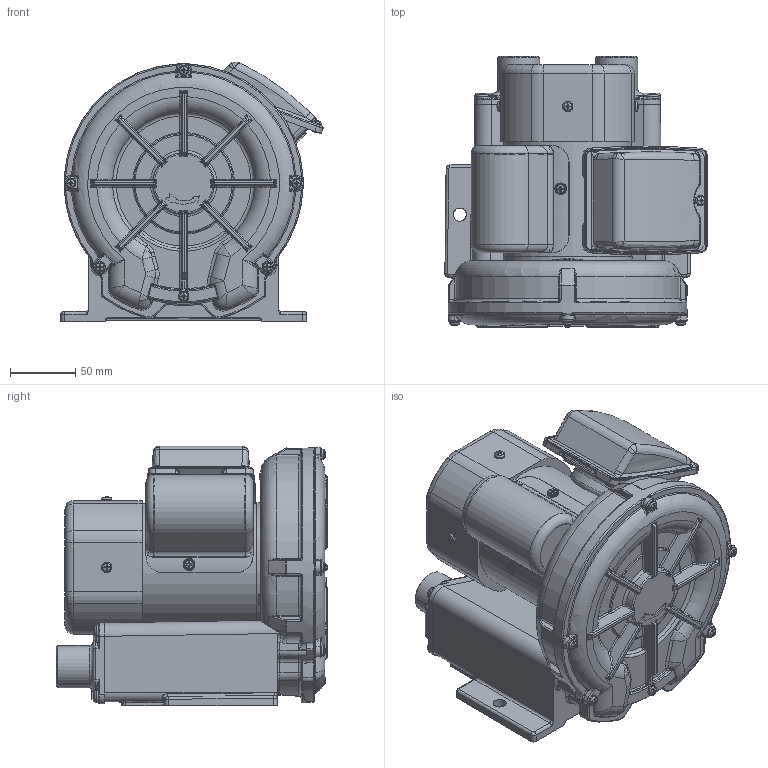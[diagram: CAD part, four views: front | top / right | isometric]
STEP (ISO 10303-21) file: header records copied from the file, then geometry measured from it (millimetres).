
FILE_DESCRIPTION(/* description */ (''),/* implementation_level */ '2;1');
FILE_NAME(/* name */ 'Y:\鼓風機\鼓風機組合\\X2\591689C07D445408\X0\\VFC080P-5T.stp',/* time_stamp */ '2018-01-18T15:58:58+08:00',/* author */ ('daniel'),/* organization */ (''),/* preprocessor_version */ 'ST-DEVELOPER v16.1',/* originating_system */ 'Autodesk Inventor 2016',/* authorisation */ '');
FILE_SCHEMA (('AUTOMOTIVE_DESIGN { 1 0 10303 214 3 1 1 }'));
Products named in the file (1): VFC080P-5T
Bounding box: 200.77 x 207.5 x 198.8 mm (x, y, z)
Volume: 3686779.4 mm3; surface area: 285393.4 mm2
Topology: 3 solids, 3 shells, 2489 faces, 6144 edges, 3542 vertices
Faces by surface type: bspline 668, cylinder 633, plane 515, torus 385, cone 171, sphere 117
Full cylindrical faces by diameter (mm): 4 x3, 4.5 x1, 7 x2, 8 x4, 9 x2, 10 x2, 12 x1, 22 x1, 23.2 x1, 24.8 x2, 32.4 x2, 50 x1, 98.2 x1
Entity records: 97039 total; most frequent: CARTESIAN_POINT 40923, ORIENTED_EDGE 11706, DIRECTION 10604, EDGE_CURVE 5846, AXIS2_PLACEMENT_3D 4519, VERTEX_POINT 3489, EDGE_LOOP 2622, FACE_OUTER_BOUND 2487
